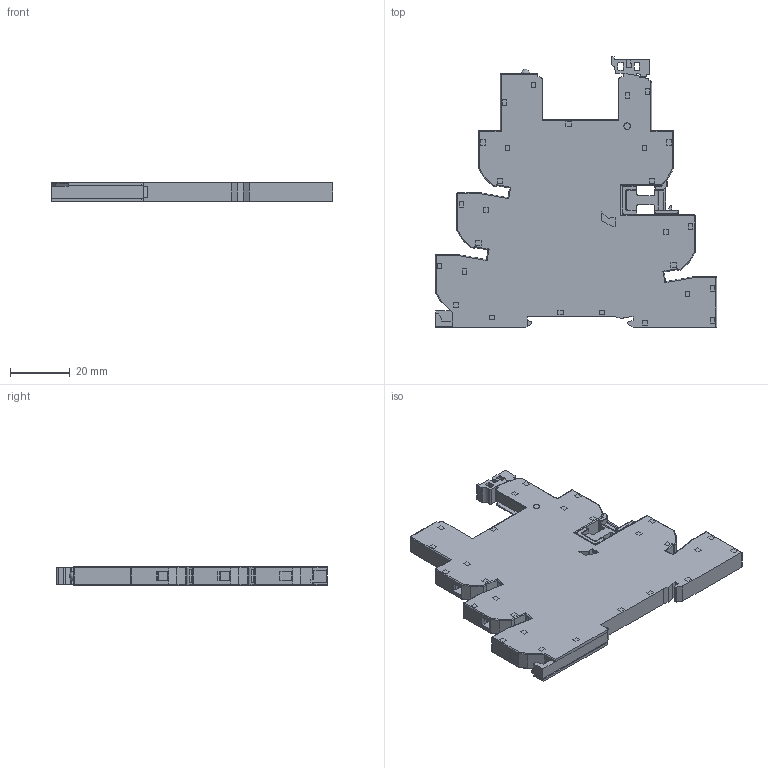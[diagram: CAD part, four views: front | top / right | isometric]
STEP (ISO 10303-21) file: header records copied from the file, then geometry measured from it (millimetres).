
FILE_DESCRIPTION(('STEP AP214'),'2;1');
FILE_NAME('9363_esistente FINITO+Tappo.stp','2011-02-02T08:36:36',(''),(''),'2007.1.106','THINKDESIGN','');
FILE_SCHEMA(('AUTOMOTIVE_DESIGN'));
Products named in the file (1): None
Bounding box: 94.25 x 90.7 x 6.2 mm (x, y, z)
Surface area: 17201.1 mm2 (no closed solid volume)
Topology: 0 solids, 0 shells, 829 faces, 4755 edges, 4738 vertices
Faces by surface type: plane 597, cylinder 201, bspline 31
Full cylindrical faces by diameter (mm): 1.5 x5, 2.2 x2, 2.798 x5, 3.9 x5, 4.299 x5
Entity records: 47416 total; most frequent: CARTESIAN_POINT 12820, DIRECTION 6132, COMPOSITE_CURVE_SEGMENT 4738, TRIMMED_CURVE 4239, VECTOR 3942, LINE 3942, AXIS2_PLACEMENT_3D 1095, OUTER_BOUNDARY_CURVE 829
